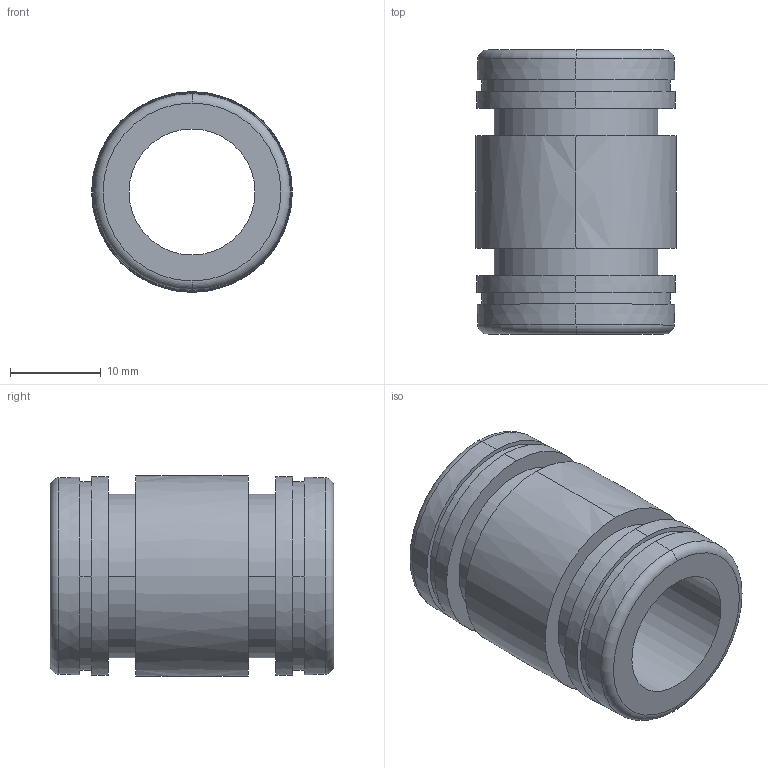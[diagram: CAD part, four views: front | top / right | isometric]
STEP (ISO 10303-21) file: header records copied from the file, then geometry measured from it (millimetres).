
FILE_DESCRIPTION((''),'2;1');
FILE_NAME('S:\L814-10SLSA.stp','2015-03-26T12:49:41',('pfALLON'),(''),'Autodesk Inventor (tm) 5.3','Autodesk Inventor (tm) 5.3','');
FILE_SCHEMA(('CONFIG_CONTROL_DESIGN'));
Length unit declared in the file: inch
Products named in the file (1): L814-10SLSA
Bounding box: 22.15 x 31.32 x 22.14 mm (x, y, z)
Volume: 6262.1 mm3; surface area: 4456.9 mm2
Topology: 1 solids, 1 shells, 34 faces, 80 edges, 56 vertices
Faces by surface type: cylinder 10, bspline 10, plane 10, torus 4
Entity records: 1359 total; most frequent: CARTESIAN_POINT 431, DIRECTION 200, ORIENTED_EDGE 160, AXIS2_PLACEMENT_3D 95, EDGE_CURVE 80, CIRCLE 70, VERTEX_POINT 56, EDGE_LOOP 44
